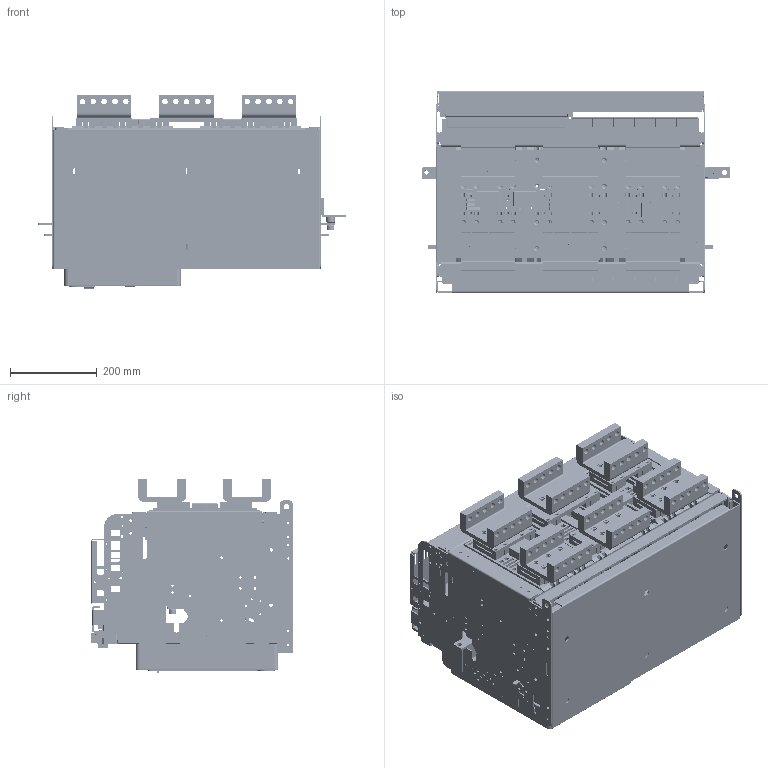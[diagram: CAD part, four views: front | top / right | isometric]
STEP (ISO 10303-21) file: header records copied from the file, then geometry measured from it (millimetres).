
FILE_DESCRIPTION((''),'2;1');
FILE_NAME('HG_19_C503H_ASM_ASM','2019-03-27T',('HHI'),(''),'PRO/ENGINEER BY PARAMETRIC TECHNOLOGY CORPORATION, 2012453','PRO/ENGINEER BY PARAMETRIC TECHNOLOGY CORPORATION, 2012453','');
FILE_SCHEMA(('CONFIG_CONTROL_DESIGN'));
Products named in the file (57): MAIN_SC_DR_BASE_503_2; U_DR_FRAME_L_5; MANIFOLD_SOLID_BREP_22393; MAIN_SC-DR-FRAME_L_48_ASM_ASM_ASM; ASM_U_DR_SIDE_L_ASM_6_ASM_ASM_ASM; MANIFOLD_SOLID_BREP_43143; MANIFOLD_SOLID_BREP_43363; MAIN_SC-DR-FRAME_R_47_ASM_ASM_ASM; ASM_U_DR_SIDE_R_ASM_5_ASM_ASM_ASM; SUPPORTER_MOLD_DOWN_503_2; SUPPORTER_TERMINAL_MOLD_WELD_4; ASM_SUPPORTER_MOLD_DOWN_503_ASM_ASM; U_MAIN_TERMINAL_MOLD_503_2; HEX_NUT_M6_4; ASM_U_TERMINAL_MOLD_503_ASM_2_A_ASM; ISOL_TERMINAL_SPACER_4; ISOL_TERMINAL_503V_2; ISOL_TERMINAL_503S_V_2; ASM_U_MAIN_TERMINAL_MOLD_503_AS_ASM; SUPPORTER_TERMINAL_MOLD_503_2; ASM_SUPPORTER_TER_MOLD_UP_503_A_ASM; SUPPORTER_TERMINAL_MOLD_2_4; SC_CO_JACK_DFC_503_2; CHINA_CONTROL_JACK_FEMALE_4; U_GUIDE_SPACER_CONTROL_JACK_4; U_CONTROL_JACK_FIX_504_4; ASM_U_CONTROL_JACK_503_ASM_4_AS_ASM; U_MANU_JACK_FRAME_SUP_503C_1; JOINT_TERMINAL_503H_1; PRT0287; PRT0288; PRT0289; PRT0290; PRT0291; DR_COVER_SAMPLE_ASM_33_ASM_ASM_ASM; PRT0292; PRT0293; PRT0294; OCR_COVER_SAMPLE_ASM_33_ASM_ASM_ASM; PRT0297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
Assembly tree (122 placements, depth 6):
  HG_19_C503H_ASM_ASM
    C503H_ASM_5_ASM_ASM_ASM
      MAIN_SC_DR_BASE_503_2
      ASM_U_DR_SIDE_L_ASM_6_ASM_ASM_ASM
        U_DR_FRAME_L_5
        MAIN_SC-DR-FRAME_L_48_ASM_ASM_ASM
          MANIFOLD_SOLID_BREP_22393
      ASM_U_DR_SIDE_R_ASM_5_ASM_ASM_ASM
        MAIN_SC-DR-FRAME_R_47_ASM_ASM_ASM
          MANIFOLD_SOLID_BREP_43143
          MANIFOLD_SOLID_BREP_43363
      ASM_SUPPORTER_MOLD_DOWN_503_ASM_ASM
        SUPPORTER_MOLD_DOWN_503_2
        SUPPORTER_TERMINAL_MOLD_WELD_4  x4
      ASM_U_MAIN_TERMINAL_MOLD_503_AS_ASM
        ASM_U_TERMINAL_MOLD_503_ASM_2_A_ASM  x2
          U_MAIN_TERMINAL_MOLD_503_2
          HEX_NUT_M6_4
        ISOL_TERMINAL_SPACER_4  x24
        ISOL_TERMINAL_503V_2  x4
        ISOL_TERMINAL_503S_V_2  x2
      ASM_SUPPORTER_TER_MOLD_UP_503_A_ASM
        SUPPORTER_TERMINAL_MOLD_503_2
        SUPPORTER_TERMINAL_MOLD_WELD_4  x2
      SUPPORTER_TERMINAL_MOLD_2_4
      ASM_U_CONTROL_JACK_503_ASM_4_AS_ASM
        SC_CO_JACK_DFC_503_2
        CHINA_CONTROL_JACK_FEMALE_4
        U_GUIDE_SPACER_CONTROL_JACK_4  x2
        U_CONTROL_JACK_FIX_504_4
      U_MANU_JACK_FRAME_SUP_503C_1
      JOINT_TERMINAL_503H_1  x6
      COVER503_ASSY_ASM_3_ASM_ASM_ASM
        COVER203_ASSY_ASM_36_ASM_ASM_ASM
          PRT0287
          DR_COVER_SAMPLE_ASM_33_ASM_ASM_ASM
            PRT0288
            PRT0289
            PRT0290
            PRT0291
          OCR_COVER_SAMPLE_ASM_33_ASM_ASM_ASM
            PRT0292
            PRT0293
            PRT0294
          PRT0297
        SC_ADDITIONAL_FRONT_COVER_7
      U_ARC_SHIELD_503_1
      FIX_BODY_ASM_L_ASM_4_ASM_ASM_ASM
        PRT0298
        PRT0299
        PRT0300
        PRT0301
      FIX_BODY_ASM_R_ASM_7_ASM_ASM_ASM
        PRT0302
        PRT0303
    HG_FRONT_COVER_20
    4AT-06477S03
    4AT-06477S04
Bounding box: 710.7 x 466.35 x 448.03 mm (x, y, z)
Volume: 10726890.8 mm3; surface area: 5376762.6 mm2
Topology: 134 solids, 151 shells, 18271 faces, 53427 edges, 35108 vertices
Faces by surface type: plane 13175, cylinder 4067, cone 375, torus 257, extrusion 175, sphere 167, bspline 55
Entity records: 499727 total; most frequent: CARTESIAN_POINT 94331, ORIENTED_EDGE 87222, DIRECTION 79909, EDGE_CURVE 43742, VECTOR 36037, LINE 35862, VERTEX_POINT 28799, AXIS2_PLACEMENT_3D 21936
